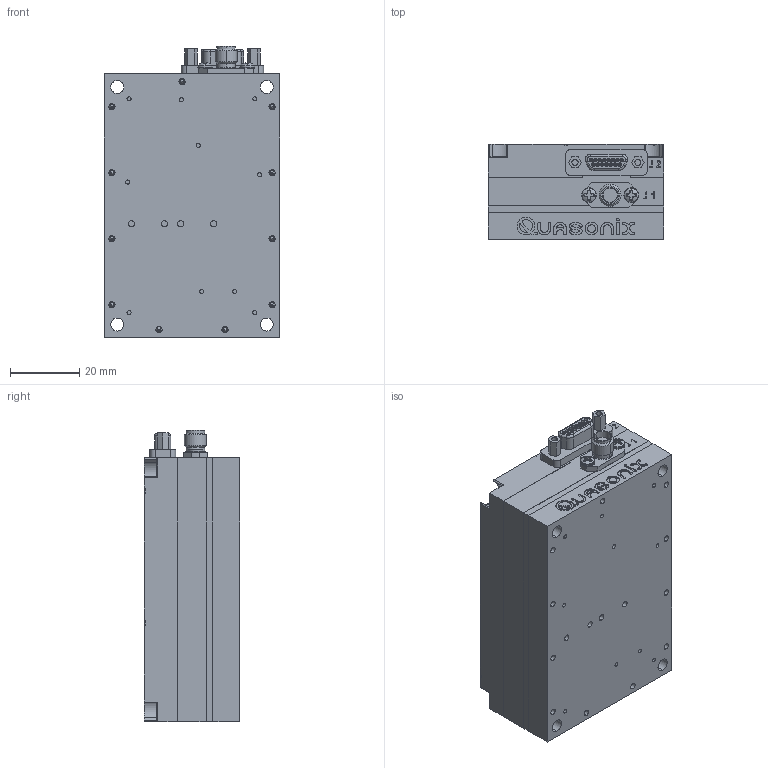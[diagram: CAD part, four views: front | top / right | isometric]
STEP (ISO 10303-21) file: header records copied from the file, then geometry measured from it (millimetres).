
FILE_DESCRIPTION (( 'STEP AP203' ), '1' );
FILE_NAME ('07AG_1-24-14.STEP', '2014-01-24T19:46:36', ( 'Quasonix' ), ( '' ), 'SwSTEP 2.0', 'SolidWorks 2014', '' );
FILE_SCHEMA (( 'CONFIG_CONTROL_DESIGN' ));
Length unit declared in the file: inch
Products named in the file (1): 07AG_1-24-14
Bounding box: 50.8 x 27.47 x 84.14 mm (x, y, z)
Surface area: 23184.9 mm2 (no closed solid volume)
Topology: 0 solids, 39 shells, 727 faces, 2377 edges, 1677 vertices
Faces by surface type: plane 380, cylinder 161, cone 98, bspline 69, torus 15, sphere 4
Entity records: 27910 total; most frequent: CARTESIAN_POINT 7271, DIRECTION 4128, ORIENTED_EDGE 4125, EDGE_CURVE 2361, VERTEX_POINT 1677, AXIS2_PLACEMENT_3D 1492, LINE 1144, VECTOR 1144
